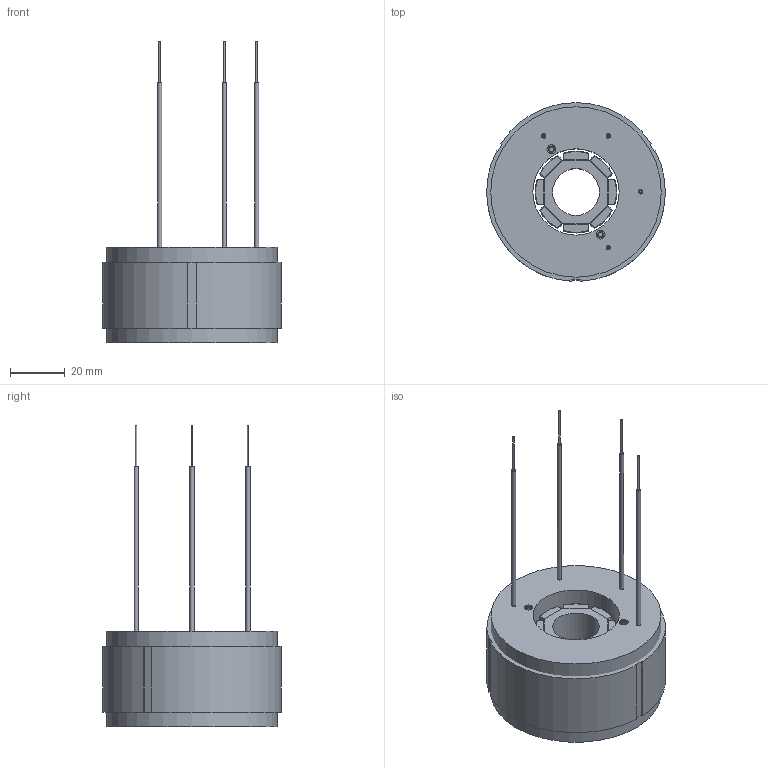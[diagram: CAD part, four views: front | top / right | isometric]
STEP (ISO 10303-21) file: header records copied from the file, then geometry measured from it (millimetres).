
FILE_DESCRIPTION(/* description */ ('Torque_QTR_65_34_Y_Kit_CAD_190315.stp'),/* implementation_level */ '2;1');
FILE_NAME(/* name */ 'Torque_QTR_65_34_Y_Kit_CAD_190315',/* time_stamp */ '2019-03-15T14:04:42+01:00',/* author */ ('Tecnotion'),/* organization */ ('Tecnotion'),/* preprocessor_version */ 'ST-DEVELOPER v16.7',/* originating_system */ 'DEX',/* authorisation */ $);
FILE_SCHEMA (('AUTOMOTIVE_DESIGN {1 0 10303 214 3 1 1}'));
Length unit declared in the file: millimetre
Products named in the file (2): 1083942_190314
Assembly tree (1 placements, depth 2):
  1083942_190314
    1083942_190314
Bounding box: 64.98 x 64.96 x 109.8 mm (x, y, z)
Surface area: 29199.8 mm2 (no closed solid volume)
Topology: 0 solids, 17 shells, 293 faces, 965 edges, 634 vertices
Faces by surface type: plane 138, cylinder 76, sphere 32, bspline 29, torus 16, cone 2
Full cylindrical faces by diameter (mm): 0.6 x4, 1.5 x6, 1.65 x2, 3.2 x2, 17 x1, 31.4 x1, 62 x1
Entity records: 11943 total; most frequent: CARTESIAN_POINT 4400, ORIENTED_EDGE 1352, DIRECTION 1328, EDGE_CURVE 910, VERTEX_POINT 632, AXIS2_PLACEMENT_3D 508, EDGE_LOOP 360, FACE_BOUND 360
